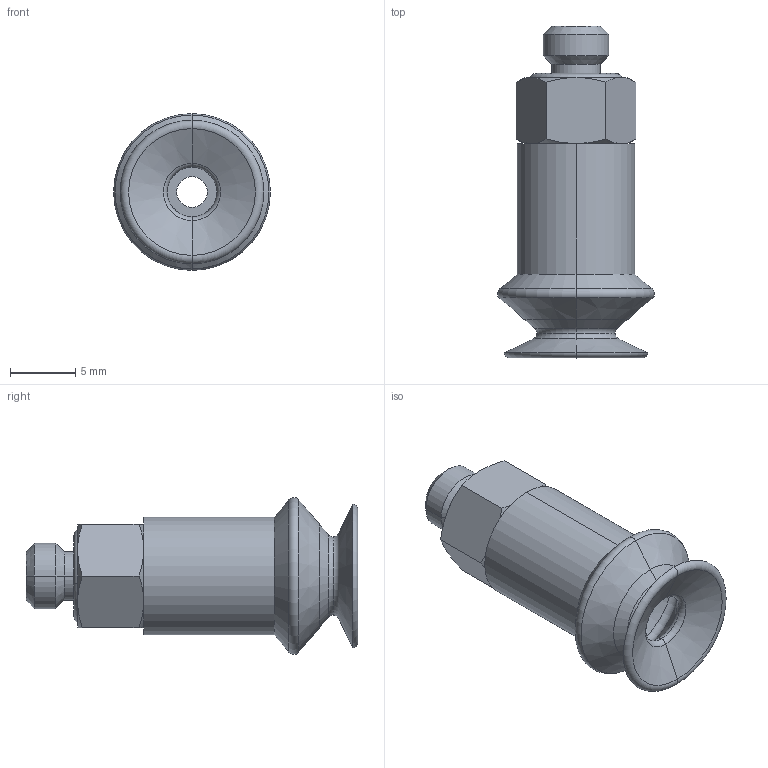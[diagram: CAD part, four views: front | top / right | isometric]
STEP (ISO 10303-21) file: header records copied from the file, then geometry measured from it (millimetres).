
FILE_DESCRIPTION (( 'STEP AP214' ), '1' );
FILE_NAME ('PSB10-M5.STEP', '2025-11-20T17:17:42', ( '' ), ( '' ), 'SwSTEP 2.0', 'SolidWorks 2025', '' );
FILE_SCHEMA (( 'AUTOMOTIVE_DESIGN' ));
Length unit declared in the file: inch
Products named in the file (4): 130.134-2.STEP; PSB10-M5.STEP; PSB10-M5; PSB10.STEP
Assembly tree (3 placements, depth 3):
  PSB10-M5
    PSB10-M5.STEP
      PSB10.STEP
      130.134-2.STEP
Bounding box: 12 x 25.4 x 12 mm (x, y, z)
Volume: 1045.3 mm3; surface area: 1672.8 mm2
Topology: 3 solids, 3 shells, 95 faces, 200 edges, 114 vertices
Faces by surface type: cone 40, torus 24, cylinder 16, plane 15
Entity records: 2849 total; most frequent: CARTESIAN_POINT 634, DIRECTION 500, ORIENTED_EDGE 400, AXIS2_PLACEMENT_3D 222, EDGE_CURVE 200, CIRCLE 120, VERTEX_POINT 114, EDGE_LOOP 104
